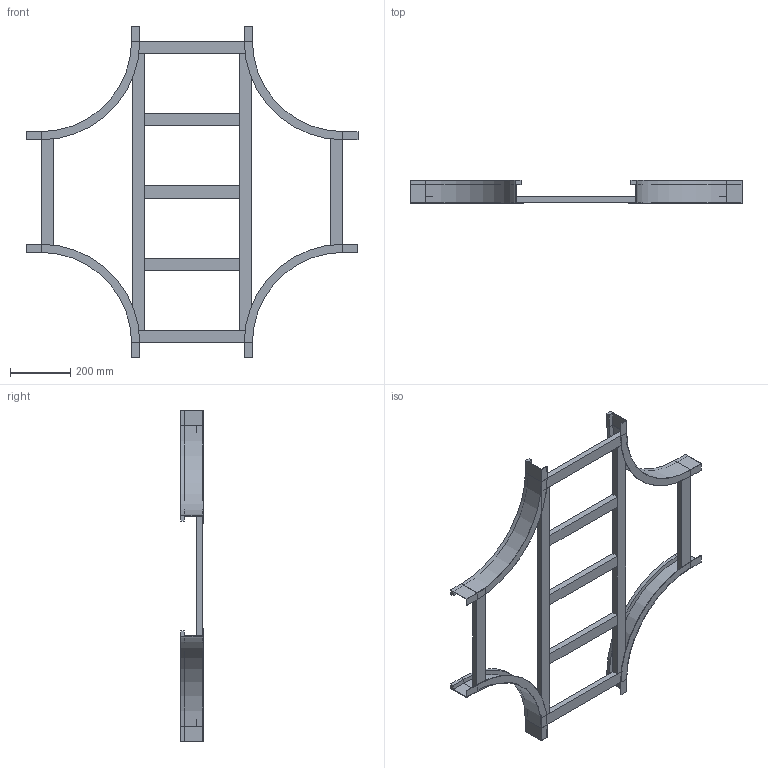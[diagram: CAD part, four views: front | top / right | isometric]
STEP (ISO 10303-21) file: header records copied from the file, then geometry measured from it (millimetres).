
FILE_DESCRIPTION (( 'STEP AP214' ), '1' );
FILE_NAME ('B2_17B3C400.step', '2025-02-21T15:59:08', ( '' ), ( '' ), 'SwSTEP 2.0', 'SolidWorks 2023', '' );
FILE_SCHEMA (( 'AUTOMOTIVE_DESIGN' ));
Length unit declared in the file: millimetre
Products named in the file (5): B2_LONGH.INTERNO 90°_H75_R300; B2_TRAVERSINO_LONG._R300+400; B2_17B3C400; TRAVERSINO_400; TRAVERSINO_INTERMEDIO_R300+400
Assembly tree (13 placements, depth 2):
  B2_17B3C400
    B2_LONGH.INTERNO 90°_H75_R300  x4
    TRAVERSINO_400  x4
    B2_TRAVERSINO_LONG._R300+400  x2
    TRAVERSINO_INTERMEDIO_R300+400  x3
Bounding box: 1100 x 75 x 1100 mm (x, y, z)
Volume: 4450534.1 mm3; surface area: 1094426.6 mm2
Topology: 13 solids, 13 shells, 158 faces, 332 edges, 200 vertices
Faces by surface type: plane 142, cylinder 16
Entity records: 1362 total; most frequent: DIRECTION 220, CARTESIAN_POINT 208, ORIENTED_EDGE 184, EDGE_CURVE 92, VECTOR 84, LINE 84, AXIS2_PLACEMENT_3D 68, VERTEX_POINT 56
